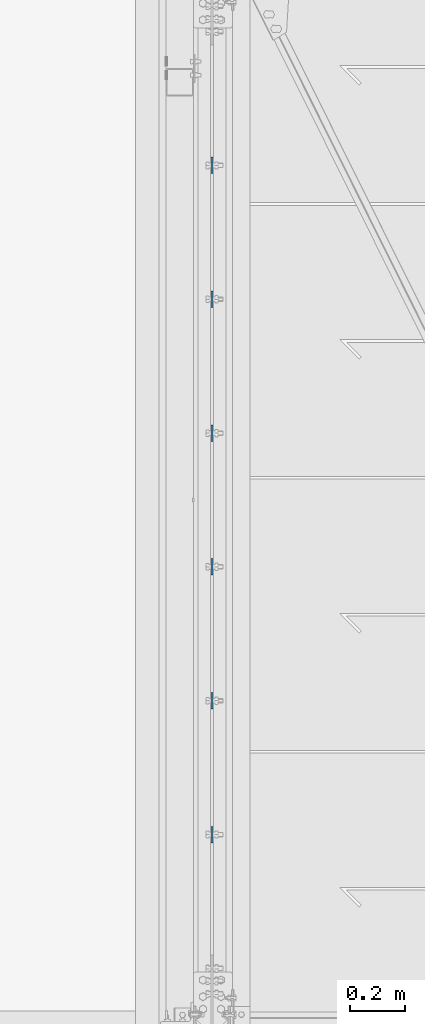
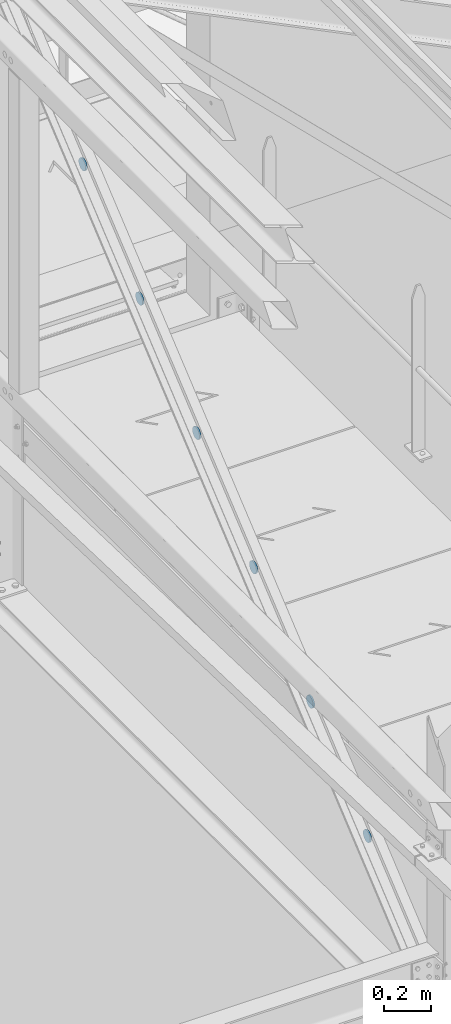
# One storey, part 129 of 362: 6 beams, 6 elements without a shape of their own.
"""IFC2X3 building model written with IfcOpenShell, lengths in millimetres."""

from ifc_helpers import new_model, si_unit, frame, frame_2d, origin_with_axes, place, context, subcontext, project, spatial, circle_curve, parameter, trimmed, segment, composite_curve, outline, extrude, material, type_object, element, aggregate, save


model = new_model("IFC2X3")

# Units and contexts
model_context = context("Model", 3, precision=1e-05, world=origin_with_axes())
body_context = subcontext(model_context, "Body", "Model", "MODEL_VIEW")
ifc_project = project(units=[si_unit("LENGTHUNIT", "METRE", prefix="MILLI"), si_unit("AREAUNIT", "SQUARE_METRE"), si_unit("VOLUMEUNIT", "CUBIC_METRE"), si_unit("MASSUNIT", "GRAM", prefix="KILO"), si_unit("TIMEUNIT", "SECOND"), si_unit("PLANEANGLEUNIT", "RADIAN"), si_unit("SOLIDANGLEUNIT", "STERADIAN"), si_unit("THERMODYNAMICTEMPERATUREUNIT", "DEGREE_CELSIUS"), si_unit("LUMINOUSINTENSITYUNIT", "LUMEN")], contexts=[model_context])

# Site, building, storey
site_placement = place(None, origin_with_axes())
site = spatial("IfcSite", under=ifc_project, at=site_placement, Name="Undefined", CompositionType="ELEMENT")
building_placement = place(site_placement, origin_with_axes())
building = spatial("IfcBuilding", under=site, at=building_placement, Name="Undefined", CompositionType="ELEMENT")
storey_placement = place(building_placement, origin_with_axes())
storey = spatial("IfcBuildingStorey", under=building, at=storey_placement, Name="Undefined", CompositionType="ELEMENT", Elevation=0.0)

# Assembly, beam
assembly_1_placement = place(storey_placement, origin_with_axes())
assembly_1 = element("IfcElementAssembly", 1, at=assembly_1_placement, inside=storey, AssemblyPlace="NOTDEFINED", PredefinedType="NOTDEFINED")
ifc_material = material(Name="Undefined/S235-E24")
beam_type = type_object("IfcBeamType", Name="TOLE8*60", PredefinedType="NOTDEFINED")
beam_1_placement = place(assembly_1_placement, frame((34280.0, 12120.8926927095, 7856.89539649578), z_axis=(-1.0, 0.0, 0.0), x_axis=(0.0, 0.0, -1.0)))
beam_1 = element("IfcBeam", 2, at=beam_1_placement, type_object=beam_type, material=ifc_material, Name="PLAQUETTE", ObjectType="TOLE8*60", context=body_context, shape_type="SweptSolid", body=[
    extrude(outline(composite_curve([segment(trimmed(circle_curve(frame_2d((30.0, 30.0), x_axis=(-1.0, 0.0)), 30.0), [parameter(0.0)], [parameter(1.5707963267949)], True, "PARAMETER"), True, "CONTINUOUS"), segment(trimmed(circle_curve(frame_2d((30.0, 30.0), x_axis=(0.0, -1.0)), 30.0), [parameter(0.0)], [parameter(1.5707963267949)], True, "PARAMETER"), True, "CONTINUOUS"), segment(trimmed(circle_curve(frame_2d((30.0, 30.0), x_axis=(1.0, 0.0)), 30.0), [parameter(0.0)], [parameter(1.5707963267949)], True, "PARAMETER"), True, "CONTINUOUS"), segment(trimmed(circle_curve(frame_2d((30.0, 30.0), x_axis=(0.0, 1.0)), 30.0), [parameter(0.0)], [parameter(1.5707963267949)], True, "PARAMETER"), True, "CONTINUOUS")], self_intersect=True)), frame((0.0, 0.0, -4.0), z_axis=(0.0, 0.0, 1.0), x_axis=(1.0, 0.0, 0.0)), (0.0, 0.0, 1.0), 8.0),
])
aggregate(assembly_1, [beam_1])

assembly_2_placement = place(storey_placement, origin_with_axes())
assembly_2 = element("IfcElementAssembly", 3, at=assembly_2_placement, inside=storey, AssemblyPlace="NOTDEFINED", PredefinedType="NOTDEFINED")
beam_2_placement = place(assembly_2_placement, frame((34280.0, 12604.535615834, 8260.73723767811), z_axis=(-1.0, 0.0, 0.0), x_axis=(0.0, 0.0, -1.0)))
beam_2 = element("IfcBeam", 4, at=beam_2_placement, type_object=beam_type, material=ifc_material, Name="PLAQUETTE", ObjectType="TOLE8*60", context=body_context, shape_type="SweptSolid", body=[
    extrude(outline(composite_curve([segment(trimmed(circle_curve(frame_2d((30.0, 30.0), x_axis=(-1.0, 0.0)), 30.0), [parameter(0.0)], [parameter(1.5707963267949)], True, "PARAMETER"), True, "CONTINUOUS"), segment(trimmed(circle_curve(frame_2d((30.0, 30.0), x_axis=(0.0, -1.0)), 30.0), [parameter(0.0)], [parameter(1.5707963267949)], True, "PARAMETER"), True, "CONTINUOUS"), segment(trimmed(circle_curve(frame_2d((30.0, 30.0), x_axis=(1.0, 0.0)), 30.0), [parameter(0.0)], [parameter(1.5707963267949)], True, "PARAMETER"), True, "CONTINUOUS"), segment(trimmed(circle_curve(frame_2d((30.0, 30.0), x_axis=(0.0, 1.0)), 30.0), [parameter(0.0)], [parameter(1.5707963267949)], True, "PARAMETER"), True, "CONTINUOUS")], self_intersect=True)), frame((0.0, 0.0, -4.0), z_axis=(0.0, 0.0, 1.0), x_axis=(1.0, 0.0, 0.0)), (0.0, 0.0, 1.0), 8.0),
])
aggregate(assembly_2, [beam_2])

assembly_3_placement = place(storey_placement, origin_with_axes())
assembly_3 = element("IfcElementAssembly", 5, at=assembly_3_placement, inside=storey, AssemblyPlace="NOTDEFINED", PredefinedType="NOTDEFINED")
beam_3_placement = place(assembly_3_placement, frame((34280.0, 13088.1785389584, 8664.57907886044), z_axis=(-1.0, 0.0, 0.0), x_axis=(0.0, 0.0, -1.0)))
beam_3 = element("IfcBeam", 6, at=beam_3_placement, type_object=beam_type, material=ifc_material, Name="PLAQUETTE", ObjectType="TOLE8*60", context=body_context, shape_type="SweptSolid", body=[
    extrude(outline(composite_curve([segment(trimmed(circle_curve(frame_2d((30.0, 30.0), x_axis=(-1.0, 0.0)), 30.0), [parameter(0.0)], [parameter(1.5707963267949)], True, "PARAMETER"), True, "CONTINUOUS"), segment(trimmed(circle_curve(frame_2d((30.0, 30.0), x_axis=(0.0, -1.0)), 30.0), [parameter(0.0)], [parameter(1.5707963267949)], True, "PARAMETER"), True, "CONTINUOUS"), segment(trimmed(circle_curve(frame_2d((30.0, 30.0), x_axis=(1.0, 0.0)), 30.0), [parameter(0.0)], [parameter(1.5707963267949)], True, "PARAMETER"), True, "CONTINUOUS"), segment(trimmed(circle_curve(frame_2d((30.0, 30.0), x_axis=(0.0, 1.0)), 30.0), [parameter(0.0)], [parameter(1.5707963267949)], True, "PARAMETER"), True, "CONTINUOUS")], self_intersect=True)), frame((0.0, 0.0, -4.0), z_axis=(0.0, 0.0, 1.0), x_axis=(1.0, 0.0, 0.0)), (0.0, 0.0, 1.0), 8.0),
])
aggregate(assembly_3, [beam_3])

assembly_4_placement = place(storey_placement, origin_with_axes())
assembly_4 = element("IfcElementAssembly", 7, at=assembly_4_placement, inside=storey, AssemblyPlace="NOTDEFINED", PredefinedType="NOTDEFINED")
beam_4_placement = place(assembly_4_placement, frame((34280.0, 13571.8214620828, 9068.42092004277), z_axis=(-1.0, 0.0, 0.0), x_axis=(0.0, 0.0, -1.0)))
beam_4 = element("IfcBeam", 8, at=beam_4_placement, type_object=beam_type, material=ifc_material, Name="PLAQUETTE", ObjectType="TOLE8*60", context=body_context, shape_type="SweptSolid", body=[
    extrude(outline(composite_curve([segment(trimmed(circle_curve(frame_2d((30.0, 30.0), x_axis=(-1.0, 0.0)), 30.0), [parameter(0.0)], [parameter(1.5707963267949)], True, "PARAMETER"), True, "CONTINUOUS"), segment(trimmed(circle_curve(frame_2d((30.0, 30.0), x_axis=(0.0, -1.0)), 30.0), [parameter(0.0)], [parameter(1.5707963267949)], True, "PARAMETER"), True, "CONTINUOUS"), segment(trimmed(circle_curve(frame_2d((30.0, 30.0), x_axis=(1.0, 0.0)), 30.0), [parameter(0.0)], [parameter(1.5707963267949)], True, "PARAMETER"), True, "CONTINUOUS"), segment(trimmed(circle_curve(frame_2d((30.0, 30.0), x_axis=(0.0, 1.0)), 30.0), [parameter(0.0)], [parameter(1.5707963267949)], True, "PARAMETER"), True, "CONTINUOUS")], self_intersect=True)), frame((0.0, 0.0, -4.0), z_axis=(0.0, 0.0, 1.0), x_axis=(1.0, 0.0, 0.0)), (0.0, 0.0, 1.0), 8.0),
])
aggregate(assembly_4, [beam_4])

assembly_5_placement = place(storey_placement, origin_with_axes())
assembly_5 = element("IfcElementAssembly", 9, at=assembly_5_placement, inside=storey, AssemblyPlace="NOTDEFINED", PredefinedType="NOTDEFINED")
beam_5_placement = place(assembly_5_placement, frame((34280.0, 14055.4643852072, 9472.2627612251), z_axis=(-1.0, 0.0, 0.0), x_axis=(0.0, 0.0, -1.0)))
beam_5 = element("IfcBeam", 10, at=beam_5_placement, type_object=beam_type, material=ifc_material, Name="PLAQUETTE", ObjectType="TOLE8*60", context=body_context, shape_type="SweptSolid", body=[
    extrude(outline(composite_curve([segment(trimmed(circle_curve(frame_2d((30.0, 30.0), x_axis=(-1.0, 0.0)), 30.0), [parameter(0.0)], [parameter(1.5707963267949)], True, "PARAMETER"), True, "CONTINUOUS"), segment(trimmed(circle_curve(frame_2d((30.0, 30.0), x_axis=(0.0, -1.0)), 30.0), [parameter(0.0)], [parameter(1.5707963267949)], True, "PARAMETER"), True, "CONTINUOUS"), segment(trimmed(circle_curve(frame_2d((30.0, 30.0), x_axis=(1.0, 0.0)), 30.0), [parameter(0.0)], [parameter(1.5707963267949)], True, "PARAMETER"), True, "CONTINUOUS"), segment(trimmed(circle_curve(frame_2d((30.0, 30.0), x_axis=(0.0, 1.0)), 30.0), [parameter(0.0)], [parameter(1.5707963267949)], True, "PARAMETER"), True, "CONTINUOUS")], self_intersect=True)), frame((0.0, 0.0, -4.0), z_axis=(0.0, 0.0, 1.0), x_axis=(1.0, 0.0, 0.0)), (0.0, 0.0, 1.0), 8.0),
])
aggregate(assembly_5, [beam_5])

assembly_6_placement = place(storey_placement, origin_with_axes())
assembly_6 = element("IfcElementAssembly", 11, at=assembly_6_placement, inside=storey, AssemblyPlace="NOTDEFINED", PredefinedType="NOTDEFINED")
beam_6_placement = place(assembly_6_placement, frame((34280.0, 14539.1073083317, 9876.10460240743), z_axis=(-1.0, 0.0, 0.0), x_axis=(0.0, 0.0, -1.0)))
beam_6 = element("IfcBeam", 12, at=beam_6_placement, type_object=beam_type, material=ifc_material, Name="PLAQUETTE", ObjectType="TOLE8*60", context=body_context, shape_type="SweptSolid", body=[
    extrude(outline(composite_curve([segment(trimmed(circle_curve(frame_2d((30.0, 30.0), x_axis=(-1.0, 0.0)), 30.0), [parameter(0.0)], [parameter(1.5707963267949)], True, "PARAMETER"), True, "CONTINUOUS"), segment(trimmed(circle_curve(frame_2d((30.0, 30.0), x_axis=(0.0, -1.0)), 30.0), [parameter(0.0)], [parameter(1.5707963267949)], True, "PARAMETER"), True, "CONTINUOUS"), segment(trimmed(circle_curve(frame_2d((30.0, 30.0), x_axis=(1.0, 0.0)), 30.0), [parameter(0.0)], [parameter(1.5707963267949)], True, "PARAMETER"), True, "CONTINUOUS"), segment(trimmed(circle_curve(frame_2d((30.0, 30.0), x_axis=(0.0, 1.0)), 30.0), [parameter(0.0)], [parameter(1.5707963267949)], True, "PARAMETER"), True, "CONTINUOUS")], self_intersect=True)), frame((0.0, 0.0, -4.0), z_axis=(0.0, 0.0, 1.0), x_axis=(1.0, 0.0, 0.0)), (0.0, 0.0, 1.0), 8.0),
])
aggregate(assembly_6, [beam_6])

save(model, "model.ifc")
